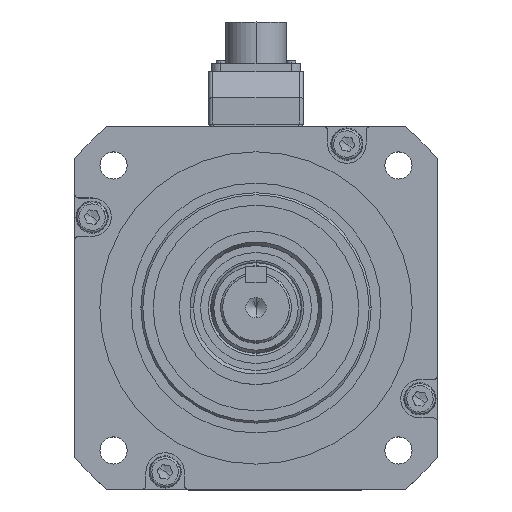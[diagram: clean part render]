
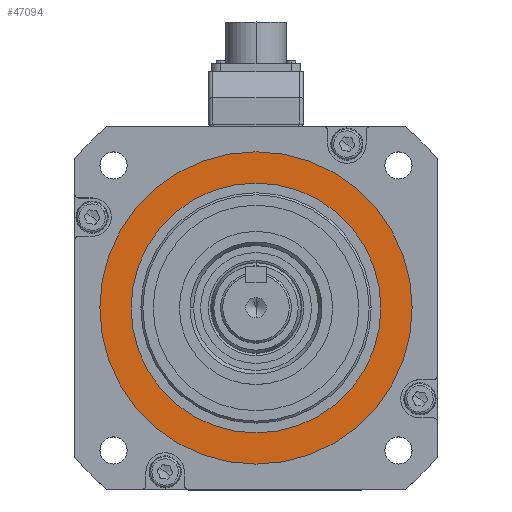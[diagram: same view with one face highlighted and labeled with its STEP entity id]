
A CAD part, top view. The second image highlights one B-rep face of the part: STEP entity #47094.
In plain terms, the highlighted planar face has unit normal (0, 0, 1).
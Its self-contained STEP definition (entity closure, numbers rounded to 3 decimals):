
#824 = CARTESIAN_POINT ( 'NONE',  ( 0., 0., 20. ) ) ;
#826 = DIRECTION ( 'NONE',  ( 0., 0., 1. ) ) ;
#828 = DIRECTION ( 'NONE',  ( 1., 0., 0. ) ) ;
#873 = CARTESIAN_POINT ( 'NONE',  ( 0., 0., 20. ) ) ;
#875 = DIRECTION ( 'NONE',  ( 0., 0., 1. ) ) ;
#877 = DIRECTION ( 'NONE',  ( 1., 0., 0. ) ) ;
#2498 = AXIS2_PLACEMENT_3D ( 'NONE', #8535, #8536, #8537 ) ;
#2500 = AXIS2_PLACEMENT_3D ( 'NONE', #8545, #8546, #8547 ) ;
#7729 = CIRCLE ( 'NONE', #2498, 77.5 ) ;
#7732 = CIRCLE ( 'NONE', #2500, 62. ) ;
#8535 = CARTESIAN_POINT ( 'NONE',  ( 0., 0., 20. ) ) ;
#8536 = DIRECTION ( 'NONE',  ( 0., 0., 1. ) ) ;
#8537 = DIRECTION ( 'NONE',  ( 1., 0., 0. ) ) ;
#8545 = CARTESIAN_POINT ( 'NONE',  ( 0., 0., 20. ) ) ;
#8546 = DIRECTION ( 'NONE',  ( 0., 0., 1. ) ) ;
#8547 = DIRECTION ( 'NONE',  ( 1., 0., 0. ) ) ;
#31457 = AXIS2_PLACEMENT_3D ( 'NONE', #54199, #54205, #54206 ) ;
#32288 = AXIS2_PLACEMENT_3D ( 'NONE', #824, #826, #828 ) ;
#32292 = AXIS2_PLACEMENT_3D ( 'NONE', #873, #875, #877 ) ;
#47094 = ADVANCED_FACE ( 'NONE', ( #55469, #55477 ), #54203, .T. ) ;
#50074 = EDGE_LOOP ( 'NONE', ( #64592, #64593 ) ) ;
#50080 = EDGE_LOOP ( 'NONE', ( #64594, #64595 ) ) ;
#50702 = VERTEX_POINT ( 'NONE', #58467 ) ;
#50703 = VERTEX_POINT ( 'NONE', #58468 ) ;
#50706 = VERTEX_POINT ( 'NONE', #58471 ) ;
#50709 = VERTEX_POINT ( 'NONE', #58474 ) ;
#53044 = EDGE_CURVE ( 'NONE', #50702, #50703, #59704, .T. ) ;
#53052 = EDGE_CURVE ( 'NONE', #50706, #50709, #59715, .T. ) ;
#53467 = EDGE_CURVE ( 'NONE', #50709, #50706, #7729, .T. ) ;
#53469 = EDGE_CURVE ( 'NONE', #50703, #50702, #7732, .T. ) ;
#54199 = CARTESIAN_POINT ( 'NONE',  ( 0., 0., 20. ) ) ;
#54203 = PLANE ( 'NONE',  #31457 ) ;
#54205 = DIRECTION ( 'NONE',  ( 0., 0., 1. ) ) ;
#54206 = DIRECTION ( 'NONE',  ( 1., 0., 0. ) ) ;
#55469 = FACE_BOUND ( 'NONE', #50074, .T. ) ;
#55477 = FACE_OUTER_BOUND ( 'NONE', #50080, .T. ) ;
#58467 = CARTESIAN_POINT ( 'NONE',  ( 62., 0., 20. ) ) ;
#58468 = CARTESIAN_POINT ( 'NONE',  ( -62., 0., 20. ) ) ;
#58471 = CARTESIAN_POINT ( 'NONE',  ( -77.5, 0., 20. ) ) ;
#58474 = CARTESIAN_POINT ( 'NONE',  ( 77.5, 0., 20. ) ) ;
#59704 = CIRCLE ( 'NONE', #32288, 62. ) ;
#59715 = CIRCLE ( 'NONE', #32292, 77.5 ) ;
#64592 = ORIENTED_EDGE ( 'NONE', *, *, #53044, .F. ) ;
#64593 = ORIENTED_EDGE ( 'NONE', *, *, #53469, .F. ) ;
#64594 = ORIENTED_EDGE ( 'NONE', *, *, #53467, .T. ) ;
#64595 = ORIENTED_EDGE ( 'NONE', *, *, #53052, .T. ) ;
